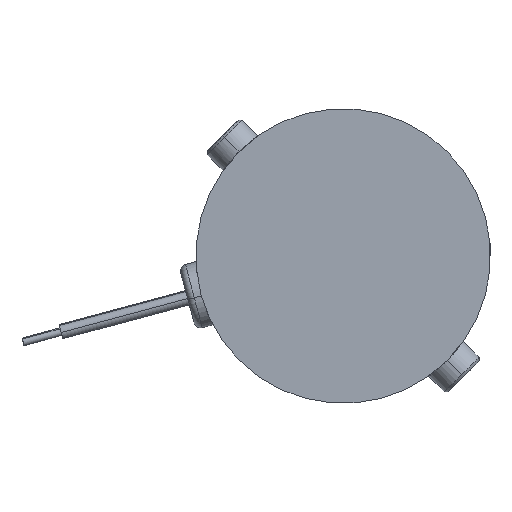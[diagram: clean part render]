
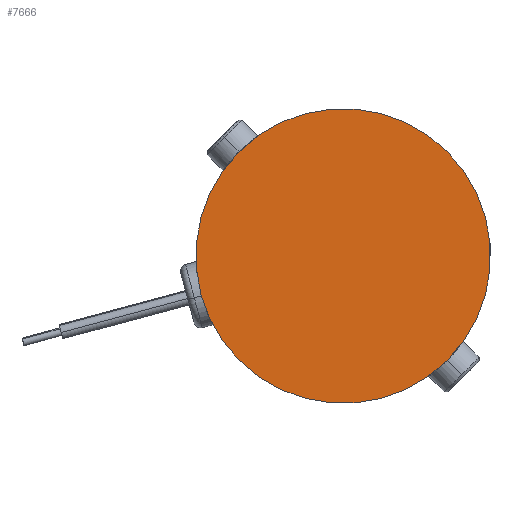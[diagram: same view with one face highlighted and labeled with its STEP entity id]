
A CAD part, left-side view. The second image highlights one B-rep face of the part: STEP entity #7666.
In plain terms, the highlighted planar face has unit normal (-1, 0, 0).
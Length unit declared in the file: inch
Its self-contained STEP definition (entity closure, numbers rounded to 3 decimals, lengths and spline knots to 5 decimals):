
#709 = CARTESIAN_POINT ( 'NONE',  ( -4.65487, 4.52397, -2.94308 ) ) ;
#1667 = CARTESIAN_POINT ( 'NONE',  ( -4.65487, 3.72848, -3.73857 ) ) ;
#1871 = DIRECTION ( 'NONE',  ( 1., 0., 0. ) ) ;
#2107 = DIRECTION ( 'NONE',  ( 1., 0., 0. ) ) ;
#2671 = VERTEX_POINT ( 'NONE', #5527 ) ;
#3083 = EDGE_CURVE ( 'NONE', #2671, #7904, #3752, .T. ) ;
#3511 = DIRECTION ( 'NONE',  ( 0., -0.707, -0.707 ) ) ;
#3568 = CARTESIAN_POINT ( 'NONE',  ( -4.65487, 3.72848, -3.73857 ) ) ;
#3696 = CIRCLE ( 'NONE', #4152, 1.125 ) ;
#3752 = CIRCLE ( 'NONE', #6335, 1.125 ) ;
#3810 = DIRECTION ( 'NONE',  ( 1., 0., 0. ) ) ;
#4152 = AXIS2_PLACEMENT_3D ( 'NONE', #6675, #1871, #6802 ) ;
#4239 = EDGE_LOOP ( 'NONE', ( #4432, #5759 ) ) ;
#4432 = ORIENTED_EDGE ( 'NONE', *, *, #8164, .F. ) ;
#4969 = AXIS2_PLACEMENT_3D ( 'NONE', #1667, #3810, #8681 ) ;
#5527 = CARTESIAN_POINT ( 'NONE',  ( -4.65487, 2.93298, -4.53407 ) ) ;
#5759 = ORIENTED_EDGE ( 'NONE', *, *, #3083, .F. ) ;
#5943 = PLANE ( 'NONE',  #4969 ) ;
#6335 = AXIS2_PLACEMENT_3D ( 'NONE', #3568, #2107, #3511 ) ;
#6552 = FACE_OUTER_BOUND ( 'NONE', #4239, .T. ) ;
#6675 = CARTESIAN_POINT ( 'NONE',  ( -4.65487, 3.72848, -3.73857 ) ) ;
#6802 = DIRECTION ( 'NONE',  ( 0., -0.707, -0.707 ) ) ;
#7666 = ADVANCED_FACE ( 'NONE', ( #6552 ), #5943, .F. ) ;
#7904 = VERTEX_POINT ( 'NONE', #709 ) ;
#8164 = EDGE_CURVE ( 'NONE', #7904, #2671, #3696, .T. ) ;
#8681 = DIRECTION ( 'NONE',  ( 0., -0.707, -0.707 ) ) ;
